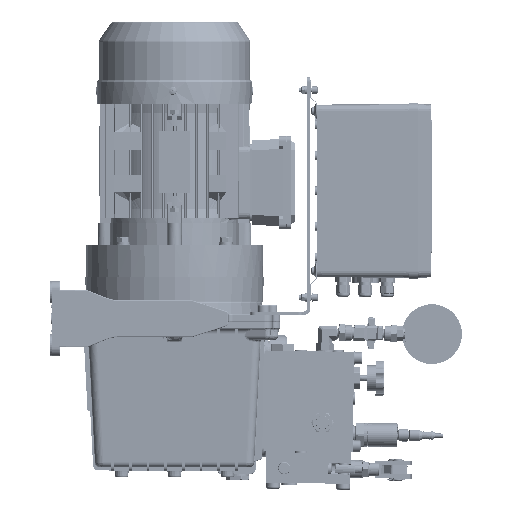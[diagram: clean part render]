
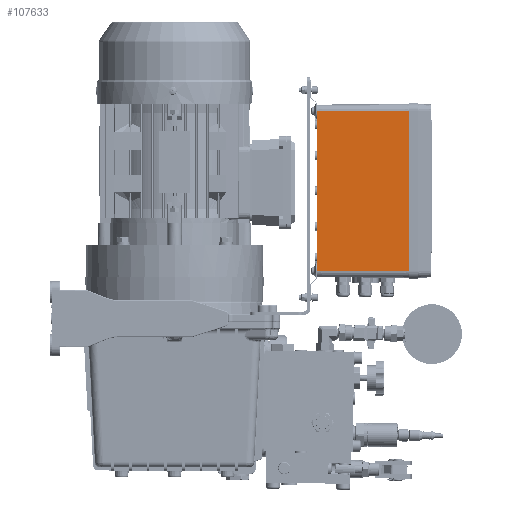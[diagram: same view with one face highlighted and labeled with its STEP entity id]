
A CAD part, front view. The second image highlights one B-rep face of the part: STEP entity #107633.
In plain terms, the highlighted planar face has unit normal (-0.007, -1, 0).
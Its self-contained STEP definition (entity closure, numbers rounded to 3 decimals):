
#18498=FACE_OUTER_BOUND('',#24829,.T.);
#24829=EDGE_LOOP('',(#80374,#80375,#80376,#80377,#80378,#80379));
#32180=LINE('',#162467,#40426);
#32217=LINE('',#162588,#40463);
#32253=LINE('',#162733,#40499);
#32357=LINE('',#163117,#40603);
#32358=LINE('',#163120,#40604);
#32359=LINE('',#163121,#40605);
#40426=VECTOR('',#130256,5.923);
#40463=VECTOR('',#130375,169.554);
#40499=VECTOR('',#130521,5.923);
#40603=VECTOR('',#130937,105.003);
#40604=VECTOR('',#130940,181.4);
#40605=VECTOR('',#130941,105.003);
#48906=VERTEX_POINT('',#162465);
#48907=VERTEX_POINT('',#162466);
#48950=VERTEX_POINT('',#162586);
#49004=VERTEX_POINT('',#162731);
#49128=VERTEX_POINT('',#163115);
#49129=VERTEX_POINT('',#163119);
#60389=EDGE_CURVE('',#48906,#48907,#32180,.T.);
#60449=EDGE_CURVE('',#48950,#48906,#32217,.T.);
#60520=EDGE_CURVE('',#49004,#48950,#32253,.T.);
#60697=EDGE_CURVE('',#49128,#48907,#32357,.T.);
#60698=EDGE_CURVE('',#49128,#49129,#32358,.T.);
#60699=EDGE_CURVE('',#49129,#49004,#32359,.T.);
#80374=ORIENTED_EDGE('',*,*,#60698,.F.);
#80375=ORIENTED_EDGE('',*,*,#60697,.T.);
#80376=ORIENTED_EDGE('',*,*,#60389,.F.);
#80377=ORIENTED_EDGE('',*,*,#60449,.F.);
#80378=ORIENTED_EDGE('',*,*,#60520,.F.);
#80379=ORIENTED_EDGE('',*,*,#60699,.F.);
#103588=PLANE('',#114977);
#107633=ADVANCED_FACE('',(#18498),#103588,.T.);
#114977=AXIS2_PLACEMENT_3D('',#163118,#130938,#130939);
#130256=DIRECTION('',(0.,0.,1.));
#130375=DIRECTION('',(0.,0.,1.));
#130521=DIRECTION('',(0.,0.,1.));
#130937=DIRECTION('',(-1.,0.007,0.));
#130938=DIRECTION('center_axis',(-0.007,-1.,
0.));
#130939=DIRECTION('ref_axis',(0.,0.,1.));
#130940=DIRECTION('',(0.,0.,-1.));
#130941=DIRECTION('',(-1.,0.007,0.));
#162465=CARTESIAN_POINT('',(-34.31,-222.247,297.2));
#162466=CARTESIAN_POINT('',(-34.31,-222.247,303.123));
#162467=CARTESIAN_POINT('',(-34.31,-222.247,167.073));
#162586=CARTESIAN_POINT('',(-34.31,-222.247,127.647));
#162588=CARTESIAN_POINT('',(-34.31,-222.247,167.073));
#162731=CARTESIAN_POINT('',(-34.31,-222.247,121.723));
#162733=CARTESIAN_POINT('',(-34.31,-222.247,167.073));
#163115=CARTESIAN_POINT('',(70.69,-222.983,303.123));
#163117=CARTESIAN_POINT('',(70.69,-222.983,303.123));
#163118=CARTESIAN_POINT('Origin',(70.69,-222.983,121.723));
#163119=CARTESIAN_POINT('',(70.69,-222.983,121.723));
#163120=CARTESIAN_POINT('',(70.69,-222.983,167.073));
#163121=CARTESIAN_POINT('',(70.69,-222.983,121.723));
